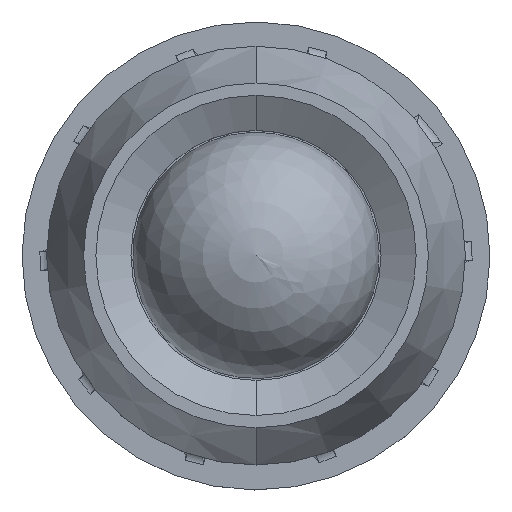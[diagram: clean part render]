
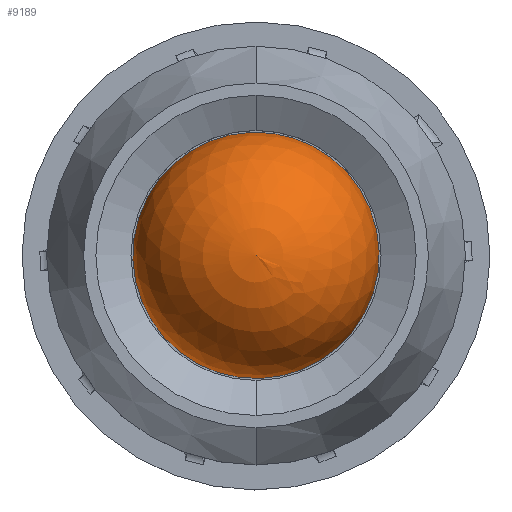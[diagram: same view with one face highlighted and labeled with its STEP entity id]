
A CAD part, top view. The second image highlights one B-rep face of the part: STEP entity #9189.
In plain terms, the highlighted spherical face has radius 5 mm.
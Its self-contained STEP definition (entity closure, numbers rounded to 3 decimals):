
#814 = CIRCLE ( 'NONE', #11960, 5. ) ;
#2657 = CARTESIAN_POINT ( 'NONE',  ( 0., 8., -5. ) ) ;
#2850 = CARTESIAN_POINT ( 'NONE',  ( 0., 8., 0. ) ) ;
#3739 = DIRECTION ( 'NONE',  ( 0., 1., 0. ) ) ;
#7814 = AXIS2_PLACEMENT_3D ( 'NONE', #2850, #12423, #8362 ) ;
#8362 = DIRECTION ( 'NONE',  ( 1., 0., 0. ) ) ;
#8716 = SPHERICAL_SURFACE ( 'NONE', #7814, 5. ) ;
#9189 = ADVANCED_FACE ( 'NONE', ( #16003 ), #8716, .T. ) ;
#9598 = EDGE_CURVE ( 'NONE', #17584, #13377, #10643, .T. ) ;
#10467 = DIRECTION ( 'NONE',  ( 0., 1., 0. ) ) ;
#10643 = CIRCLE ( 'NONE', #17008, 5. ) ;
#11960 = AXIS2_PLACEMENT_3D ( 'NONE', #14756, #3739, #16094 ) ;
#12423 = DIRECTION ( 'NONE',  ( 0., 1., 0. ) ) ;
#12496 = ORIENTED_EDGE ( 'NONE', *, *, #13050, .T. ) ;
#12817 = ORIENTED_EDGE ( 'NONE', *, *, #9598, .T. ) ;
#12899 = CARTESIAN_POINT ( 'NONE',  ( 0., 8., 5. ) ) ;
#13050 = EDGE_CURVE ( 'NONE', #13377, #17584, #814, .T. ) ;
#13338 = CARTESIAN_POINT ( 'NONE',  ( 0., 8., 0. ) ) ;
#13377 = VERTEX_POINT ( 'NONE', #12899 ) ;
#14454 = EDGE_LOOP ( 'NONE', ( #12817, #12496 ) ) ;
#14756 = CARTESIAN_POINT ( 'NONE',  ( 0., 8., 0. ) ) ;
#15857 = DIRECTION ( 'NONE',  ( 0., 0., 1. ) ) ;
#16003 = FACE_OUTER_BOUND ( 'NONE', #14454, .T. ) ;
#16094 = DIRECTION ( 'NONE',  ( 0., 0., 1. ) ) ;
#17008 = AXIS2_PLACEMENT_3D ( 'NONE', #13338, #10467, #15857 ) ;
#17584 = VERTEX_POINT ( 'NONE', #2657 ) ;
